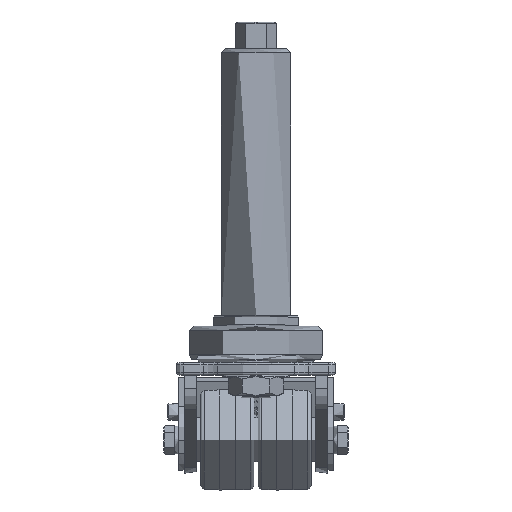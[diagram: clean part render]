
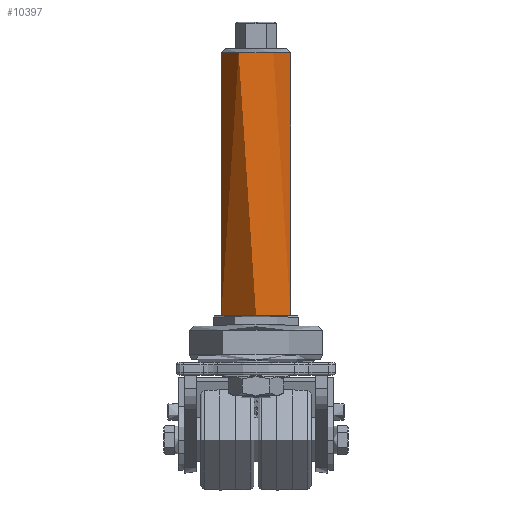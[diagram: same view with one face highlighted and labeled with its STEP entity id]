
A CAD part, top view. The second image highlights one B-rep face of the part: STEP entity #10397.
In plain terms, the highlighted cylindrical face has radius 26 mm (diameter 52 mm), a full revolution.
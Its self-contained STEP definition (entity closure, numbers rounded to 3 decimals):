
#1725=LINE('',#18408,#2592);
#2592=VECTOR('',#13636,26.);
#2703=CYLINDRICAL_SURFACE('',#11227,26.);
#3254=FACE_OUTER_BOUND('',#3935,.T.);
#3935=EDGE_LOOP('',(#9482,#9483,#9484,#9485,#9486));
#4313=CIRCLE('',#11222,26.);
#4315=CIRCLE('',#11225,26.);
#4316=CIRCLE('',#11226,26.);
#5244=VERTEX_POINT('',#18397);
#5246=VERTEX_POINT('',#18402);
#5247=VERTEX_POINT('',#18404);
#6679=EDGE_CURVE('',#5244,#5244,#4313,.T.);
#6682=EDGE_CURVE('',#5246,#5247,#4315,.T.);
#6683=EDGE_CURVE('',#5247,#5246,#4316,.T.);
#6684=EDGE_CURVE('',#5247,#5244,#1725,.T.);
#9482=ORIENTED_EDGE('',*,*,#6682,.F.);
#9483=ORIENTED_EDGE('',*,*,#6683,.F.);
#9484=ORIENTED_EDGE('',*,*,#6684,.T.);
#9485=ORIENTED_EDGE('',*,*,#6679,.F.);
#9486=ORIENTED_EDGE('',*,*,#6684,.F.);
#10397=ADVANCED_FACE('',(#3254),#2703,.T.);
#11222=AXIS2_PLACEMENT_3D('',#18398,#13623,#13624);
#11225=AXIS2_PLACEMENT_3D('',#18405,#13630,#13631);
#11226=AXIS2_PLACEMENT_3D('',#18406,#13632,#13633);
#11227=AXIS2_PLACEMENT_3D('',#18407,#13634,#13635);
#13623=DIRECTION('center_axis',(0.,-1.,0.));
#13624=DIRECTION('ref_axis',(-1.,0.,0.));
#13630=DIRECTION('center_axis',(0.,1.,0.));
#13631=DIRECTION('ref_axis',(1.,0.,0.));
#13632=DIRECTION('center_axis',(0.,1.,0.));
#13633=DIRECTION('ref_axis',(1.,0.,0.));
#13634=DIRECTION('center_axis',(0.,1.,0.));
#13635=DIRECTION('ref_axis',(-1.,0.,0.));
#13636=DIRECTION('',(0.,-1.,0.));
#18397=CARTESIAN_POINT('',(26.,33.,0.));
#18398=CARTESIAN_POINT('Origin',(0.,33.,0.));
#18402=CARTESIAN_POINT('',(-26.,230.,0.));
#18404=CARTESIAN_POINT('',(26.,230.,0.));
#18405=CARTESIAN_POINT('Origin',(0.,230.,0.));
#18406=CARTESIAN_POINT('Origin',(0.,230.,0.));
#18407=CARTESIAN_POINT('Origin',(0.,33.,0.));
#18408=CARTESIAN_POINT('',(26.,33.,0.));
